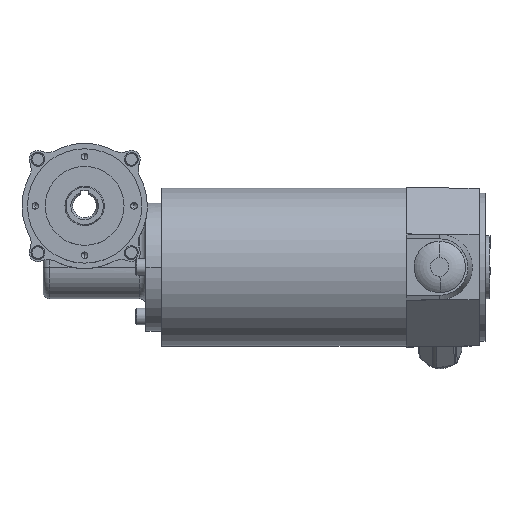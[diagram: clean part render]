
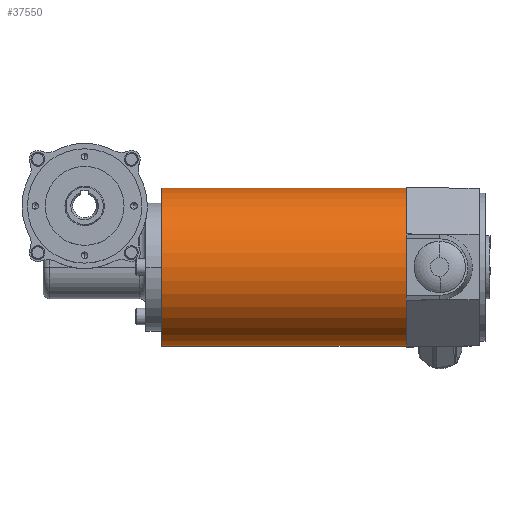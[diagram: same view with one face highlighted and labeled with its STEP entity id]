
A CAD part, top view. The second image highlights one B-rep face of the part: STEP entity #37550.
In plain terms, the highlighted cylindrical face has radius 40 mm (diameter 80 mm), a partial arc.
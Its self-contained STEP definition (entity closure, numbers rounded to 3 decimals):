
#2060=CARTESIAN_POINT('',(-51.849,455.,
19.808));
#2070=DIRECTION('',(-0.026,0.,
1.));
#2080=DIRECTION('',(1.,0.,
0.026));
#2090=AXIS2_PLACEMENT_3D('',#2060,#2070,#2080);
#2100=CIRCLE('',#2090,40.);
#2110=CARTESIAN_POINT('',(-91.835,455.,
18.761));
#2120=VERTEX_POINT('',#2110);
#2130=CARTESIAN_POINT('',(-11.863,455.,
20.855));
#2140=VERTEX_POINT('',#2130);
#2170=EDGE_CURVE('',#2140,#2120,#2100,.T.);
#35570=CARTESIAN_POINT('',(-48.603,455.,
-104.15));
#35580=DIRECTION('',(-0.026,0.,
1.));
#35590=DIRECTION('',(1.,0.,
0.026));
#35600=AXIS2_PLACEMENT_3D('',#35570,#35580,#35590);
#35610=CIRCLE('',#35600,40.);
#35620=CARTESIAN_POINT('',(-88.589,455.,
-105.197));
#35630=VERTEX_POINT('',#35620);
#35640=CARTESIAN_POINT('',(-8.617,455.,
-103.102));
#35650=VERTEX_POINT('',#35640);
#35680=EDGE_CURVE('',#35650,#35630,#35610,.T.);
#37340=CARTESIAN_POINT('',(-48.603,455.,
-104.15));
#37350=DIRECTION('',(-0.026,0.,
1.));
#37360=DIRECTION('',(1.,0.,
0.026));
#37370=AXIS2_PLACEMENT_3D('',#37340,#37350,#37360);
#37380=CYLINDRICAL_SURFACE('',#37370,40.);
#37390=CARTESIAN_POINT('',(-88.589,455.,
-105.197));
#37400=DIRECTION('',(-0.026,0.,
1.));
#37410=VECTOR('',#37400,1.);
#37420=LINE('',#37390,#37410);
#37430=EDGE_CURVE('',#35630,#2120,#37420,.T.);
#37440=ORIENTED_EDGE('',*,*,#37430,.T.);
#37450=ORIENTED_EDGE('',*,*,#35680,.T.);
#37460=CARTESIAN_POINT('',(-8.617,455.,
-103.102));
#37470=DIRECTION('',(-0.026,0.,
1.));
#37480=VECTOR('',#37470,1.);
#37490=LINE('',#37460,#37480);
#37500=EDGE_CURVE('',#35650,#2140,#37490,.T.);
#37510=ORIENTED_EDGE('',*,*,#37500,.F.);
#37520=ORIENTED_EDGE('',*,*,#2170,.F.);
#37530=EDGE_LOOP('',(#37520,#37510,#37450,#37440));
#37540=FACE_OUTER_BOUND('',#37530,.T.);
#37550=ADVANCED_FACE('',(#37540),#37380,.T.);
